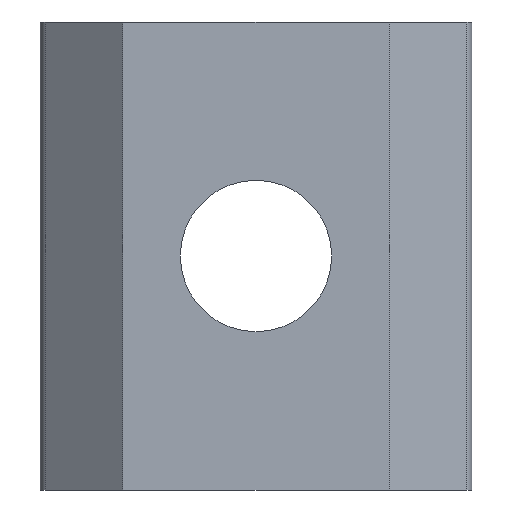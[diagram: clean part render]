
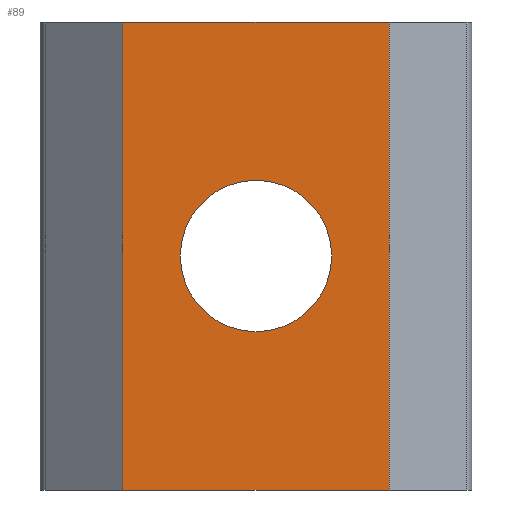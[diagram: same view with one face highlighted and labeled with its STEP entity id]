
A CAD part, front view. The second image highlights one B-rep face of the part: STEP entity #89.
In plain terms, the highlighted planar face has unit normal (0, -1, 0).
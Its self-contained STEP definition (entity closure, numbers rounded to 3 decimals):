
#6 = LINE ( 'NONE', #341, #338 ) ;
#7 = ORIENTED_EDGE ( 'NONE', *, *, #550, .T. ) ;
#34 = VERTEX_POINT ( 'NONE', #693 ) ;
#36 = DIRECTION ( 'NONE',  ( -1., 0., 0. ) ) ;
#48 = CARTESIAN_POINT ( 'NONE',  ( -2.9, -2.25, 5.1 ) ) ;
#56 = AXIS2_PLACEMENT_3D ( 'NONE', #68, #117, #231 ) ;
#68 = CARTESIAN_POINT ( 'NONE',  ( 2.9, -2.25, 5.1 ) ) ;
#79 = CIRCLE ( 'NONE', #182, 1.65 ) ;
#80 = DIRECTION ( 'NONE',  ( 0., 1., 0. ) ) ;
#89 = ADVANCED_FACE ( 'NONE', ( #212, #372 ), #556, .F. ) ;
#102 = EDGE_LOOP ( 'NONE', ( #608, #263, #284, #7 ) ) ;
#111 = VERTEX_POINT ( 'NONE', #298 ) ;
#117 = DIRECTION ( 'NONE',  ( 0., 1., 0. ) ) ;
#141 = VERTEX_POINT ( 'NONE', #563 ) ;
#147 = DIRECTION ( 'NONE',  ( 0., 1., 0. ) ) ;
#169 = DIRECTION ( 'NONE',  ( 1., 0., 0. ) ) ;
#182 = AXIS2_PLACEMENT_3D ( 'NONE', #365, #147, #36 ) ;
#208 = CARTESIAN_POINT ( 'NONE',  ( -1.65, -2.25, 0. ) ) ;
#212 = FACE_BOUND ( 'NONE', #303, .T. ) ;
#220 = CARTESIAN_POINT ( 'NONE',  ( 2.9, -2.25, 5.1 ) ) ;
#227 = EDGE_CURVE ( 'NONE', #141, #34, #657, .T. ) ;
#231 = DIRECTION ( 'NONE',  ( -1., 0., 0. ) ) ;
#241 = CIRCLE ( 'NONE', #681, 1.65 ) ;
#261 = CARTESIAN_POINT ( 'NONE',  ( 2.9, -2.25, 5.1 ) ) ;
#263 = ORIENTED_EDGE ( 'NONE', *, *, #621, .F. ) ;
#272 = ORIENTED_EDGE ( 'NONE', *, *, #709, .T. ) ;
#284 = ORIENTED_EDGE ( 'NONE', *, *, #503, .F. ) ;
#298 = CARTESIAN_POINT ( 'NONE',  ( 1.65, -2.25, 0. ) ) ;
#303 = EDGE_LOOP ( 'NONE', ( #525, #272 ) ) ;
#314 = DIRECTION ( 'NONE',  ( 0., 0., -1. ) ) ;
#337 = CARTESIAN_POINT ( 'NONE',  ( -2.9, -2.25, 5.1 ) ) ;
#338 = VECTOR ( 'NONE', #698, 1000. ) ;
#341 = CARTESIAN_POINT ( 'NONE',  ( 2.9, -2.25, 5.1 ) ) ;
#365 = CARTESIAN_POINT ( 'NONE',  ( 0., -2.25, 0. ) ) ;
#372 = FACE_OUTER_BOUND ( 'NONE', #102, .T. ) ;
#408 = VERTEX_POINT ( 'NONE', #220 ) ;
#409 = CARTESIAN_POINT ( 'NONE',  ( 0., -2.25, 0. ) ) ;
#448 = VERTEX_POINT ( 'NONE', #48 ) ;
#460 = LINE ( 'NONE', #337, #602 ) ;
#461 = DIRECTION ( 'NONE',  ( -1., 0., 0. ) ) ;
#464 = LINE ( 'NONE', #261, #516 ) ;
#495 = DIRECTION ( 'NONE',  ( 0., 0., -1. ) ) ;
#503 = EDGE_CURVE ( 'NONE', #448, #408, #6, .T. ) ;
#516 = VECTOR ( 'NONE', #314, 1000. ) ;
#525 = ORIENTED_EDGE ( 'NONE', *, *, #661, .T. ) ;
#550 = EDGE_CURVE ( 'NONE', #448, #141, #460, .T. ) ;
#556 = PLANE ( 'NONE',  #56 ) ;
#563 = CARTESIAN_POINT ( 'NONE',  ( -2.9, -2.25, -5.1 ) ) ;
#597 = CARTESIAN_POINT ( 'NONE',  ( 2.9, -2.25, -5.1 ) ) ;
#602 = VECTOR ( 'NONE', #495, 1000. ) ;
#608 = ORIENTED_EDGE ( 'NONE', *, *, #227, .T. ) ;
#621 = EDGE_CURVE ( 'NONE', #408, #34, #464, .T. ) ;
#639 = VECTOR ( 'NONE', #169, 1000. ) ;
#657 = LINE ( 'NONE', #597, #639 ) ;
#658 = VERTEX_POINT ( 'NONE', #208 ) ;
#661 = EDGE_CURVE ( 'NONE', #658, #111, #79, .T. ) ;
#681 = AXIS2_PLACEMENT_3D ( 'NONE', #409, #80, #461 ) ;
#693 = CARTESIAN_POINT ( 'NONE',  ( 2.9, -2.25, -5.1 ) ) ;
#698 = DIRECTION ( 'NONE',  ( 1., 0., 0. ) ) ;
#709 = EDGE_CURVE ( 'NONE', #111, #658, #241, .T. ) ;
